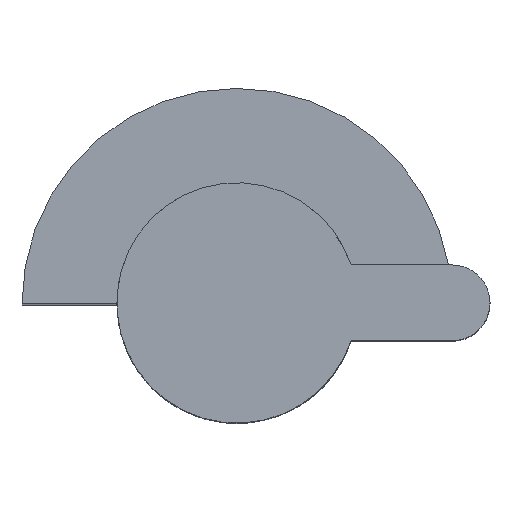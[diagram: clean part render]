
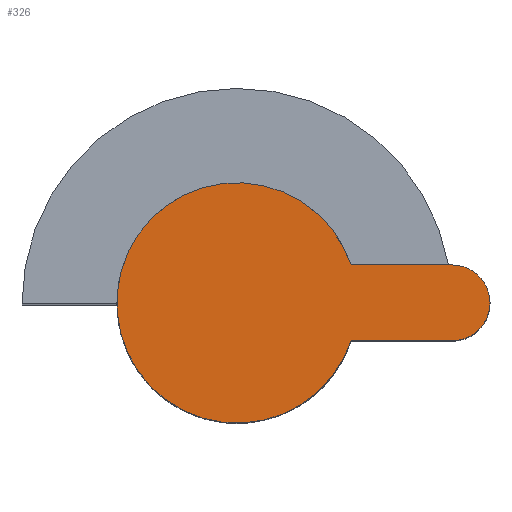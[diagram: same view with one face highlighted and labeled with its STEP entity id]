
A CAD part, top view. The second image highlights one B-rep face of the part: STEP entity #326.
In plain terms, the highlighted planar face has unit normal (0, 0, 1).
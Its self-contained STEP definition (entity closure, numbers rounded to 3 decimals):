
#326=ADVANCED_FACE('',(#451),#394,.F.);
#394=PLANE('',#1613);
#451=FACE_OUTER_BOUND('',#566,.T.);
#566=EDGE_LOOP('',(#920,#921,#922,#923));
#665=CIRCLE('',#1610,19.);
#666=CIRCLE('',#1612,6.);
#920=ORIENTED_EDGE('',*,*,#1291,.F.);
#921=ORIENTED_EDGE('',*,*,#1294,.F.);
#922=ORIENTED_EDGE('',*,*,#1295,.F.);
#923=ORIENTED_EDGE('',*,*,#1296,.F.);
#1129=VERTEX_POINT('',#2608);
#1130=VERTEX_POINT('',#2610);
#1132=VERTEX_POINT('',#2631);
#1133=VERTEX_POINT('',#2633);
#1291=EDGE_CURVE('',#1129,#1130,#665,.T.);
#1294=EDGE_CURVE('',#1132,#1129,#1398,.T.);
#1295=EDGE_CURVE('',#1133,#1132,#666,.T.);
#1296=EDGE_CURVE('',#1130,#1133,#1399,.T.);
#1398=LINE('',#2630,#1470);
#1399=LINE('',#2634,#1471);
#1470=VECTOR('',#1956,1.);
#1471=VECTOR('',#1959,1.);
#1610=AXIS2_PLACEMENT_3D('',#2609,#1951,#1952);
#1612=AXIS2_PLACEMENT_3D('',#2632,#1957,#1958);
#1613=AXIS2_PLACEMENT_3D('',#2635,#1960,#1961);
#1951=DIRECTION('',(0.,0.,-1.));
#1952=DIRECTION('',(-1.,0.,0.));
#1956=DIRECTION('',(-1.,0.,0.));
#1957=DIRECTION('',(0.,0.,-1.));
#1958=DIRECTION('',(-1.,0.,0.));
#1959=DIRECTION('',(1.,0.,0.));
#1960=DIRECTION('',(0.,0.,-1.));
#1961=DIRECTION('',(-1.,0.,0.));
#2608=CARTESIAN_POINT('',(18.028,-6.,38.));
#2609=CARTESIAN_POINT('',(0.,0.,38.));
#2610=CARTESIAN_POINT('',(18.028,6.,38.));
#2630=CARTESIAN_POINT('',(34.,-6.,38.));
#2631=CARTESIAN_POINT('',(34.,-6.,38.));
#2632=CARTESIAN_POINT('',(34.,0.,38.));
#2633=CARTESIAN_POINT('',(34.,6.,38.));
#2634=CARTESIAN_POINT('',(0.,6.,38.));
#2635=CARTESIAN_POINT('',(0.,0.,38.));
